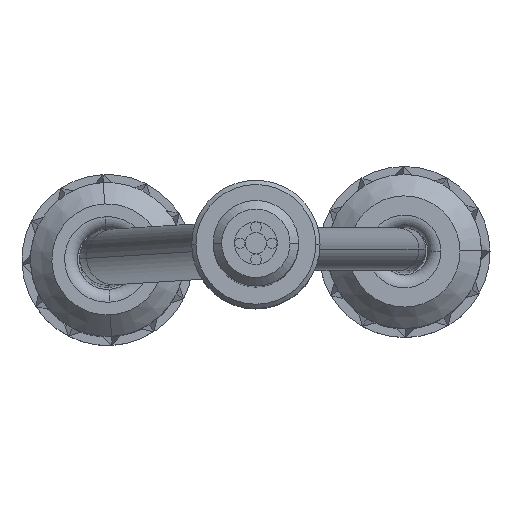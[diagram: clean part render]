
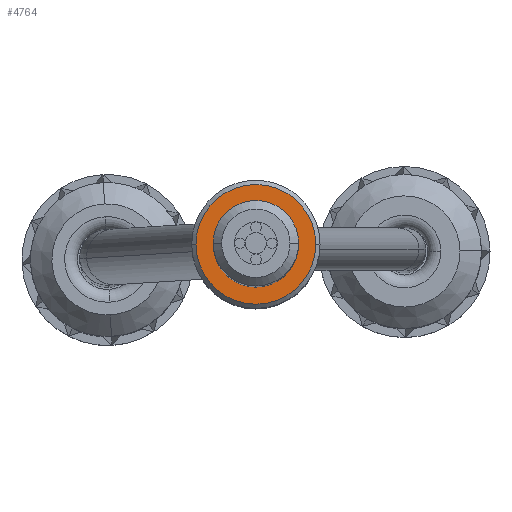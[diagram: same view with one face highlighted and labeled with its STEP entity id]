
A CAD part, top view. The second image highlights one B-rep face of the part: STEP entity #4764.
In plain terms, the highlighted planar face has unit normal (0, 0, 1).
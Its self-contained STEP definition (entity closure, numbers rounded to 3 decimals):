
#328 = FACE_BOUND ( 'NONE', #1983, .T. ) ;
#534 = AXIS2_PLACEMENT_3D ( 'NONE', #6117, #6659, #4013 ) ;
#562 = CARTESIAN_POINT ( 'NONE',  ( -23.5, 0., 8.5 ) ) ;
#568 = ORIENTED_EDGE ( 'NONE', *, *, #5663, .T. ) ;
#574 = CARTESIAN_POINT ( 'NONE',  ( -23.5, 1., 8.5 ) ) ;
#769 = CIRCLE ( 'NONE', #534, 1.4 ) ;
#902 = VERTEX_POINT ( 'NONE', #2509 ) ;
#956 = AXIS2_PLACEMENT_3D ( 'NONE', #574, #5830, #4793 ) ;
#1219 = VERTEX_POINT ( 'NONE', #3182 ) ;
#1443 = DIRECTION ( 'NONE',  ( 0., 0., -1. ) ) ;
#1840 = CARTESIAN_POINT ( 'NONE',  ( -23.5, 0., 8.5 ) ) ;
#1983 = EDGE_LOOP ( 'NONE', ( #2693, #6234 ) ) ;
#2173 = DIRECTION ( 'NONE',  ( 0., 0., -1. ) ) ;
#2509 = CARTESIAN_POINT ( 'NONE',  ( -22.1, 0., 8.5 ) ) ;
#2578 = AXIS2_PLACEMENT_3D ( 'NONE', #6022, #2173, #4364 ) ;
#2632 = EDGE_CURVE ( 'NONE', #6180, #1219, #3031, .T. ) ;
#2654 = PLANE ( 'NONE',  #956 ) ;
#2693 = ORIENTED_EDGE ( 'NONE', *, *, #2632, .T. ) ;
#2938 = CARTESIAN_POINT ( 'NONE',  ( -24.5, 0., 8.5 ) ) ;
#3031 = CIRCLE ( 'NONE', #4460, 1. ) ;
#3182 = CARTESIAN_POINT ( 'NONE',  ( -22.5, 0., 8.5 ) ) ;
#3200 = CIRCLE ( 'NONE', #2578, 1. ) ;
#4013 = DIRECTION ( 'NONE',  ( -1., 0., 0. ) ) ;
#4176 = FACE_OUTER_BOUND ( 'NONE', #4962, .T. ) ;
#4364 = DIRECTION ( 'NONE',  ( -1., 0., 0. ) ) ;
#4389 = AXIS2_PLACEMENT_3D ( 'NONE', #1840, #4497, #6164 ) ;
#4460 = AXIS2_PLACEMENT_3D ( 'NONE', #562, #1443, #5181 ) ;
#4497 = DIRECTION ( 'NONE',  ( 0., 0., 1. ) ) ;
#4519 = VERTEX_POINT ( 'NONE', #6246 ) ;
#4764 = ADVANCED_FACE ( 'NONE', ( #4176, #328 ), #2654, .F. ) ;
#4793 = DIRECTION ( 'NONE',  ( -1., 0., 0. ) ) ;
#4962 = EDGE_LOOP ( 'NONE', ( #568, #6211 ) ) ;
#5122 = CIRCLE ( 'NONE', #4389, 1.4 ) ;
#5181 = DIRECTION ( 'NONE',  ( -1., 0., 0. ) ) ;
#5504 = EDGE_CURVE ( 'NONE', #1219, #6180, #3200, .T. ) ;
#5625 = EDGE_CURVE ( 'NONE', #902, #4519, #769, .T. ) ;
#5663 = EDGE_CURVE ( 'NONE', #4519, #902, #5122, .T. ) ;
#5830 = DIRECTION ( 'NONE',  ( 0., 0., -1. ) ) ;
#6022 = CARTESIAN_POINT ( 'NONE',  ( -23.5, 0., 8.5 ) ) ;
#6117 = CARTESIAN_POINT ( 'NONE',  ( -23.5, 0., 8.5 ) ) ;
#6164 = DIRECTION ( 'NONE',  ( -1., 0., 0. ) ) ;
#6180 = VERTEX_POINT ( 'NONE', #2938 ) ;
#6211 = ORIENTED_EDGE ( 'NONE', *, *, #5625, .T. ) ;
#6234 = ORIENTED_EDGE ( 'NONE', *, *, #5504, .T. ) ;
#6246 = CARTESIAN_POINT ( 'NONE',  ( -24.9, 0., 8.5 ) ) ;
#6659 = DIRECTION ( 'NONE',  ( 0., 0., 1. ) ) ;
